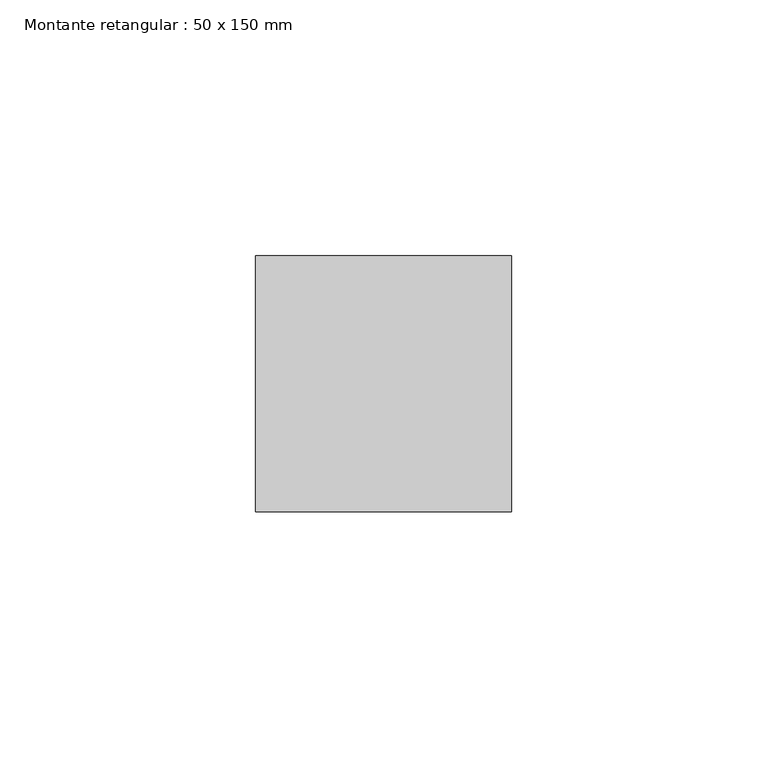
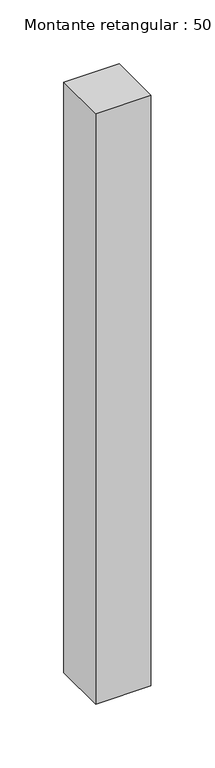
"""IFC4 building model written with IfcOpenShell, lengths in millimetres: member geometry, Montante retangular : 50 x 150 mm."""

from ifc_helpers import new_model, si_unit, frame, origin, place, context, project, spatial, polyline, outline, extrude, source, transform, mapped, element, save


def montante_retangular_50_x_150_mm_75c1328f(model_context):
    return source(origin(), model_context, "Body", "SweptSolid", [
        extrude(outline(polyline([(0.0, 25.0), (0.0, -25.0), (-50.0, -25.0), (-50.0, 25.0), (0.0, 25.0)])), frame((0.0, 0.0, -565.0), z_axis=(0.0, 0.0, 1.0), x_axis=(1.0, 0.0, 0.0)), (0.0, 0.0, 1.0), 565.0),
    ])


if __name__ == "__main__":
    model = new_model("IFC4")
    model_context = context("Model", 3, world=origin())
    ifc_project = project(units=[si_unit("LENGTHUNIT", "METRE", prefix="MILLI")], contexts=[model_context])
    site = spatial("IfcSite", under=ifc_project)
    building = spatial("IfcBuilding", under=site)
    placement = place(None, origin())
    montante_retangular_50_x_150_mm_shape = montante_retangular_50_x_150_mm_75c1328f(model_context)
    element("IfcMember", 1, ObjectType="Montante retangular : 50 x 150 mm", at=placement, inside=building, context=model_context, shape_type="MappedRepresentation", body=[
        mapped(montante_retangular_50_x_150_mm_shape, transform((0.0, 0.0, 0.0), x_axis=(1.0, 0.0, 0.0), y_axis=(0.0, 1.0, 0.0), z_axis=(0.0, 0.0, 1.0))),
    ])
    save(model, "model.ifc")
